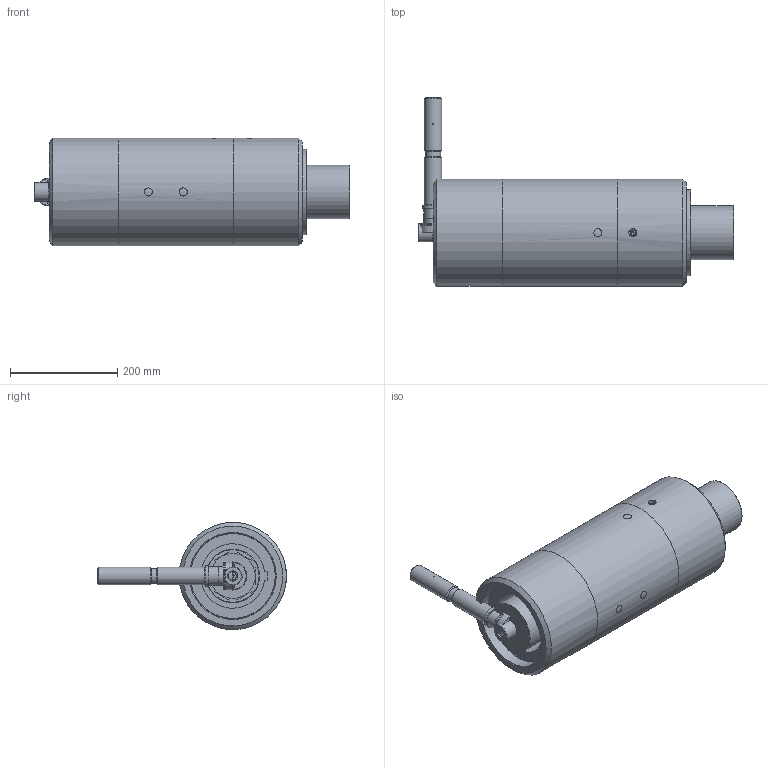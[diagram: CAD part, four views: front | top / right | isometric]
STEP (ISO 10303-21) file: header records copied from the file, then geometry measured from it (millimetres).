
FILE_DESCRIPTION( ( 'Unknown' ), '1' );
FILE_NAME( 'C:/Users/Wucherer/Desktop/08530213 nur außengeometrie baugruppe.stp', 'Unknown', ( 'Unknown' ), ( 'Unknown' ), 'PSStep 10.1', 'Unknown', ' ' );
FILE_SCHEMA( ( 'AUTOMOTIVE_DESIGN { 1 0 10303 214 1 1 1 1 }' ) );
Length unit declared in the file: millimetre
Products named in the file (9): Assem1; 40908791; 43708723; KT100629; KT100399; KT100253; 43130215; 40930216 f黵 Step Datei; 45908727 f黵 Step Datei
Bounding box: 587.72 x 352 x 200 mm (x, y, z)
Volume: 19137922.9 mm3; surface area: 1452570.5 mm2
Topology: 16 solids, 16 shells, 444 faces, 984 edges, 610 vertices
Faces by surface type: plane 196, cylinder 116, cone 106, torus 24, sphere 2
Full cylindrical faces by diameter (mm): 2 x2, 4 x2, 5 x8, 6 x2, 8 x2, 8.5 x2, 8.85 x2, 10 x4, 10.2 x2, 12 x2, 12.1 x2, 12.5 x2, 14 x2, 15 x4, 21 x2, 28 x2, 32.5 x6, 34 x6, 39 x2, 40 x2, 50 x2, 50.5 x2, 52 x2, 65 x2, 69 x2, 100 x4, 110 x2, 140 x2, 150 x2, 153 x2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
Entity records: 6925 total; most frequent: CARTESIAN_POINT 1725, DIRECTION 975, ORIENTED_EDGE 738, AXIS2_PLACEMENT_3D 410, EDGE_CURVE 369, EDGE_LOOP 359, VERTEX_POINT 288, FACE_OUTER_BOUND 280
